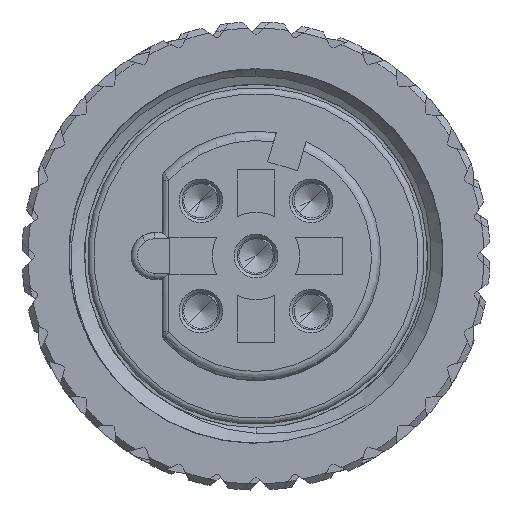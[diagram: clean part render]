
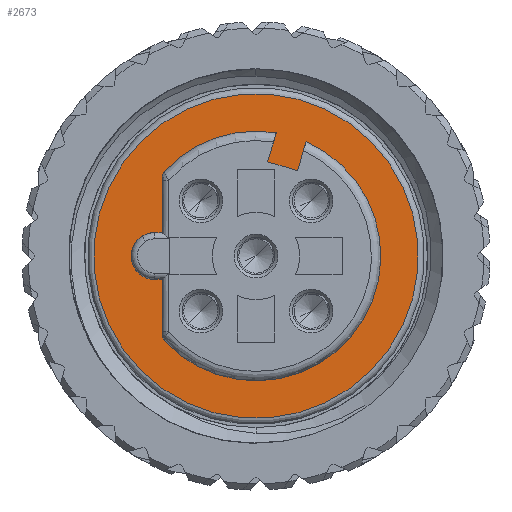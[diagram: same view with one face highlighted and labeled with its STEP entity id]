
A CAD part, front view. The second image highlights one B-rep face of the part: STEP entity #2673.
In plain terms, the highlighted planar face has unit normal (0, -1, 0).
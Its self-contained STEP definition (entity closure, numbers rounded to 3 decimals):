
#2673=ADVANCED_FACE('',(#4287,#4288),#3801,.T.);
#3801=PLANE('',#21013);
#4287=FACE_BOUND('',#4547,.T.);
#4288=FACE_BOUND('',#4548,.T.);
#4547=EDGE_LOOP('',(#8766));
#4548=EDGE_LOOP('',(#8767,#8768,#8769,#8770,#8771,#8772,#8773,#8774,#8775,
#8776,#8777,#8778));
#5828=LINE('',#28892,#7234);
#5829=LINE('',#28896,#7235);
#5830=LINE('',#28898,#7236);
#5831=LINE('',#28900,#7237);
#5832=LINE('',#28903,#7238);
#5833=LINE('',#28905,#7239);
#5834=LINE('',#28909,#7240);
#7234=VECTOR('',#23220,1.);
#7235=VECTOR('',#23223,1.);
#7236=VECTOR('',#23224,1.);
#7237=VECTOR('',#23225,1.);
#7238=VECTOR('',#23228,1.);
#7239=VECTOR('',#23229,1.);
#7240=VECTOR('',#23232,1.);
#8766=ORIENTED_EDGE('',*,*,#17008,.T.);
#8767=ORIENTED_EDGE('',*,*,#17009,.T.);
#8768=ORIENTED_EDGE('',*,*,#17010,.T.);
#8769=ORIENTED_EDGE('',*,*,#16961,.T.);
#8770=ORIENTED_EDGE('',*,*,#17011,.T.);
#8771=ORIENTED_EDGE('',*,*,#17012,.T.);
#8772=ORIENTED_EDGE('',*,*,#17013,.T.);
#8773=ORIENTED_EDGE('',*,*,#16965,.T.);
#8774=ORIENTED_EDGE('',*,*,#17014,.T.);
#8775=ORIENTED_EDGE('',*,*,#17015,.T.);
#8776=ORIENTED_EDGE('',*,*,#17016,.T.);
#8777=ORIENTED_EDGE('',*,*,#17017,.T.);
#8778=ORIENTED_EDGE('',*,*,#17018,.T.);
#14881=VERTEX_POINT('',#28797);
#14882=VERTEX_POINT('',#28798);
#14883=VERTEX_POINT('',#28803);
#14884=VERTEX_POINT('',#28805);
#14921=VERTEX_POINT('',#28891);
#14922=VERTEX_POINT('',#28893);
#14923=VERTEX_POINT('',#28894);
#14924=VERTEX_POINT('',#28897);
#14925=VERTEX_POINT('',#28899);
#14926=VERTEX_POINT('',#28902);
#14927=VERTEX_POINT('',#28904);
#14928=VERTEX_POINT('',#28906);
#14929=VERTEX_POINT('',#28908);
#16961=EDGE_CURVE('',#14881,#14882,#20026,.T.);
#16965=EDGE_CURVE('',#14884,#14883,#20027,.T.);
#17008=EDGE_CURVE('',#14921,#14921,#20044,.T.);
#17009=EDGE_CURVE('',#14922,#14923,#5828,.T.);
#17010=EDGE_CURVE('',#14923,#14881,#20045,.T.);
#17011=EDGE_CURVE('',#14882,#14924,#5829,.T.);
#17012=EDGE_CURVE('',#14924,#14925,#5830,.T.);
#17013=EDGE_CURVE('',#14925,#14884,#5831,.T.);
#17014=EDGE_CURVE('',#14883,#14926,#20046,.T.);
#17015=EDGE_CURVE('',#14926,#14927,#5832,.T.);
#17016=EDGE_CURVE('',#14927,#14928,#5833,.T.);
#17017=EDGE_CURVE('',#14928,#14929,#20047,.T.);
#17018=EDGE_CURVE('',#14929,#14922,#5834,.T.);
#20026=CIRCLE('',#20984,4.);
#20027=CIRCLE('',#20986,4.);
#20044=CIRCLE('',#21009,5.2);
#20045=CIRCLE('',#21010,0.2);
#20046=CIRCLE('',#21011,0.2);
#20047=CIRCLE('',#21012,0.75);
#20984=AXIS2_PLACEMENT_3D('',#28796,#23139,#23140);
#20986=AXIS2_PLACEMENT_3D('',#28804,#23146,#23147);
#21009=AXIS2_PLACEMENT_3D('',#28890,#23218,#23219);
#21010=AXIS2_PLACEMENT_3D('',#28895,#23221,#23222);
#21011=AXIS2_PLACEMENT_3D('',#28901,#23226,#23227);
#21012=AXIS2_PLACEMENT_3D('',#28907,#23230,#23231);
#21013=AXIS2_PLACEMENT_3D('',#28910,#23233,#23234);
#23139=DIRECTION('',(0.,1.,0.));
#23140=DIRECTION('',(-0.707,0.,0.707));
#23146=DIRECTION('',(0.,1.,0.));
#23147=DIRECTION('',(-0.707,0.,0.707));
#23218=DIRECTION('',(0.,-1.,0.));
#23219=DIRECTION('',(-0.707,0.,0.707));
#23220=DIRECTION('',(0.,0.,1.));
#23221=DIRECTION('',(0.,1.,0.));
#23222=DIRECTION('',(-0.707,0.,0.707));
#23223=DIRECTION('',(-0.284,0.,-0.959));
#23224=DIRECTION('',(0.959,0.,-0.284));
#23225=DIRECTION('',(0.284,0.,0.959));
#23226=DIRECTION('',(0.,1.,0.));
#23227=DIRECTION('',(-0.707,0.,0.707));
#23228=DIRECTION('',(0.,0.,1.));
#23229=DIRECTION('',(-1.,0.,0.));
#23230=DIRECTION('',(0.,1.,0.));
#23231=DIRECTION('',(-0.707,0.,0.707));
#23232=DIRECTION('',(1.,0.,0.));
#23233=DIRECTION('',(0.,-1.,0.));
#23234=DIRECTION('',(-0.707,0.,-0.707));
#28796=CARTESIAN_POINT('',(0.,-120.949,0.));
#28797=CARTESIAN_POINT('',(-2.947,-120.949,2.704));
#28798=CARTESIAN_POINT('',(0.648,-120.949,3.947));
#28803=CARTESIAN_POINT('',(-2.947,-120.949,-2.704));
#28804=CARTESIAN_POINT('',(0.,-120.949,0.));
#28805=CARTESIAN_POINT('',(1.607,-120.949,3.663));
#28890=CARTESIAN_POINT('',(0.,-120.949,0.));
#28891=CARTESIAN_POINT('',(-3.677,-120.949,3.677));
#28892=CARTESIAN_POINT('',(-3.,-120.949,0.));
#28893=CARTESIAN_POINT('',(-3.,-120.949,0.75));
#28894=CARTESIAN_POINT('',(-3.,-120.949,2.569));
#28895=CARTESIAN_POINT('',(-2.8,-120.949,2.569));
#28896=CARTESIAN_POINT('',(1.225,-120.949,5.895));
#28897=CARTESIAN_POINT('',(0.373,-120.949,3.018));
#28898=CARTESIAN_POINT('',(0.373,-120.949,3.018));
#28899=CARTESIAN_POINT('',(1.331,-120.949,2.734));
#28900=CARTESIAN_POINT('',(1.331,-120.949,2.734));
#28901=CARTESIAN_POINT('',(-2.8,-120.949,-2.569));
#28902=CARTESIAN_POINT('',(-3.,-120.949,-2.569));
#28903=CARTESIAN_POINT('',(-3.,-120.949,0.));
#28904=CARTESIAN_POINT('',(-3.,-120.949,-0.75));
#28905=CARTESIAN_POINT('',(0.,-120.949,-0.75));
#28906=CARTESIAN_POINT('',(-3.25,-120.949,-0.75));
#28907=CARTESIAN_POINT('',(-3.25,-120.949,0.));
#28908=CARTESIAN_POINT('',(-3.25,-120.949,0.75));
#28909=CARTESIAN_POINT('',(0.,-120.949,0.75));
#28910=CARTESIAN_POINT('',(0.,-120.949,0.));
